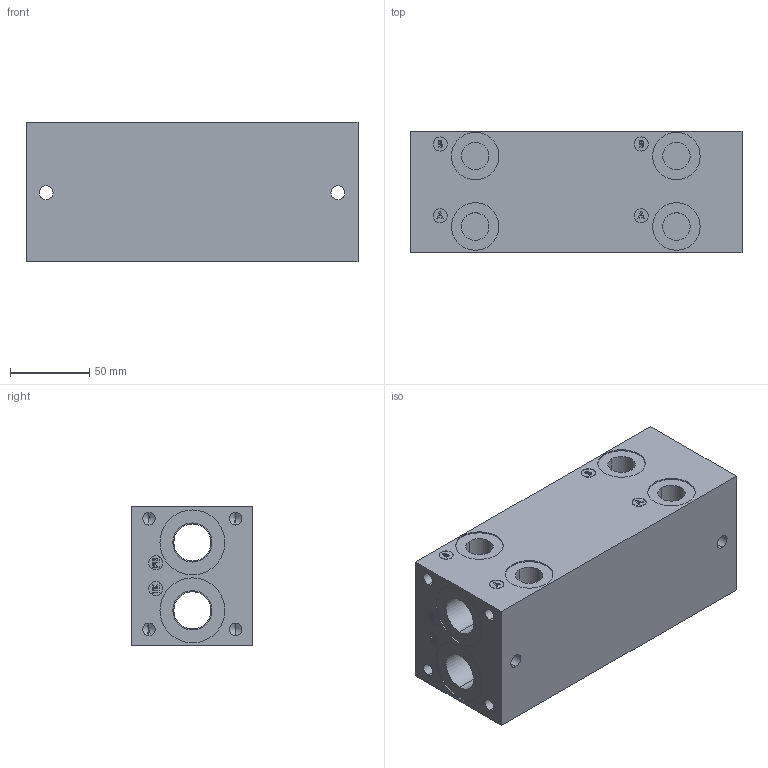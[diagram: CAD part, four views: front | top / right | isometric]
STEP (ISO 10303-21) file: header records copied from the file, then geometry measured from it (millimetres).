
FILE_DESCRIPTION (( 'STEP AP203' ), '1' );
FILE_NAME ('BM-ASP05S5-02-1_Z.STEP', '2015-01-06T16:11:12', ( '' ), ( '' ), 'SwSTEP 2.0', 'SolidWorks 2014', '' );
FILE_SCHEMA (( 'CONFIG_CONTROL_DESIGN' ));
Length unit declared in the file: inch
Products named in the file (1): BM-ASP05S5-02-1_Z
Bounding box: 209.55 x 76.71 x 88.04 mm (x, y, z)
Volume: 1189770.8 mm3; surface area: 127410.6 mm2
Topology: 1 solids, 1 shells, 386 faces, 936 edges, 584 vertices
Faces by surface type: plane 176, cylinder 124, cone 48, bspline 38
Entity records: 13203 total; most frequent: CARTESIAN_POINT 4345, ORIENTED_EDGE 1776, DIRECTION 1758, EDGE_CURVE 888, AXIS2_PLACEMENT_3D 597, VERTEX_POINT 584, VECTOR 564, LINE 564
